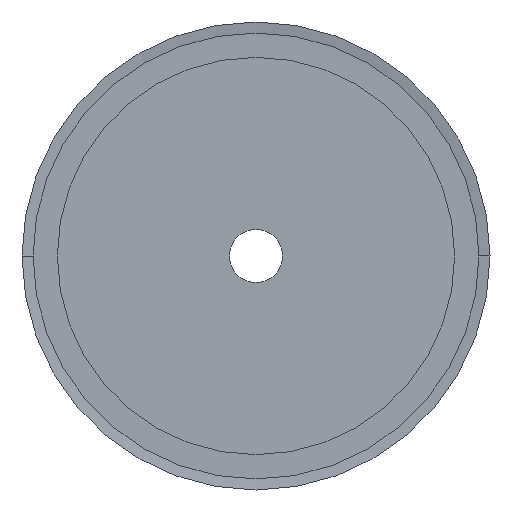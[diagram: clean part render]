
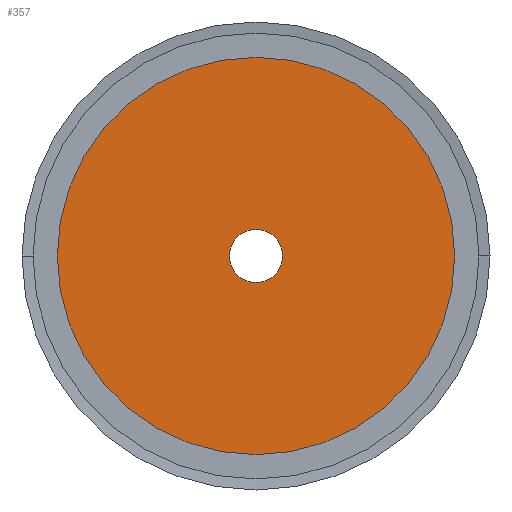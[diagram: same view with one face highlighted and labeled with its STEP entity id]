
A CAD part, left-side view. The second image highlights one B-rep face of the part: STEP entity #357.
In plain terms, the highlighted planar face has unit normal (-1, 0, 0).
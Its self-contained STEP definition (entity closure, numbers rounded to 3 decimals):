
#357 = ADVANCED_FACE( '', ( #929, #930 ), #931, .T. );
#929 = FACE_BOUND( '', #1502, .T. );
#930 = FACE_OUTER_BOUND( '', #1503, .T. );
#931 = PLANE( '', #1504 );
#1502 = EDGE_LOOP( '', ( #3987, #3988 ) );
#1503 = EDGE_LOOP( '', ( #3989, #3990 ) );
#1504 = AXIS2_PLACEMENT_3D( '', #3991, #3992, #3993 );
#3987 = ORIENTED_EDGE( '', *, *, #4808, .F. );
#3988 = ORIENTED_EDGE( '', *, *, #4009, .F. );
#3989 = ORIENTED_EDGE( '', *, *, #3997, .T. );
#3990 = ORIENTED_EDGE( '', *, *, #4813, .T. );
#3991 = CARTESIAN_POINT( '', ( 0., 25.5, 0. ) );
#3992 = DIRECTION( '', ( -1., 0., 0. ) );
#3993 = DIRECTION( '', ( 0., 1., 0. ) );
#3997 = EDGE_CURVE( '', #4815, #4819, #4821, .T. );
#4009 = EDGE_CURVE( '', #4843, #4839, #4845, .T. );
#4808 = EDGE_CURVE( '', #4839, #4843, #6172, .T. );
#4813 = EDGE_CURVE( '', #4819, #4815, #6177, .T. );
#4815 = VERTEX_POINT( '', #6179 );
#4819 = VERTEX_POINT( '', #6184 );
#4821 = CIRCLE( '', #6187, 45. );
#4839 = VERTEX_POINT( '', #6209 );
#4843 = VERTEX_POINT( '', #6214 );
#4845 = CIRCLE( '', #6217, 6. );
#6172 = CIRCLE( '', #8004, 6. );
#6177 = CIRCLE( '', #8009, 45. );
#6179 = CARTESIAN_POINT( '', ( 0., 45., 0. ) );
#6184 = CARTESIAN_POINT( '', ( 0., -45., 0. ) );
#6187 = AXIS2_PLACEMENT_3D( '', #8015, #8016, #8017 );
#6209 = CARTESIAN_POINT( '', ( 0., 6., 0. ) );
#6214 = CARTESIAN_POINT( '', ( 0., -6., 0. ) );
#6217 = AXIS2_PLACEMENT_3D( '', #8039, #8040, #8041 );
#8004 = AXIS2_PLACEMENT_3D( '', #9516, #9517, #9518 );
#8009 = AXIS2_PLACEMENT_3D( '', #9531, #9532, #9533 );
#8015 = CARTESIAN_POINT( '', ( 0., 0., 0. ) );
#8016 = DIRECTION( '', ( -1., 0., 0. ) );
#8017 = DIRECTION( '', ( 0., 1., 0. ) );
#8039 = CARTESIAN_POINT( '', ( 0., 0., 0. ) );
#8040 = DIRECTION( '', ( -1., 0., 0. ) );
#8041 = DIRECTION( '', ( 0., 1., 0. ) );
#9516 = CARTESIAN_POINT( '', ( 0., 0., 0. ) );
#9517 = DIRECTION( '', ( -1., 0., 0. ) );
#9518 = DIRECTION( '', ( 0., 1., 0. ) );
#9531 = CARTESIAN_POINT( '', ( 0., 0., 0. ) );
#9532 = DIRECTION( '', ( -1., 0., 0. ) );
#9533 = DIRECTION( '', ( 0., 1., 0. ) );
